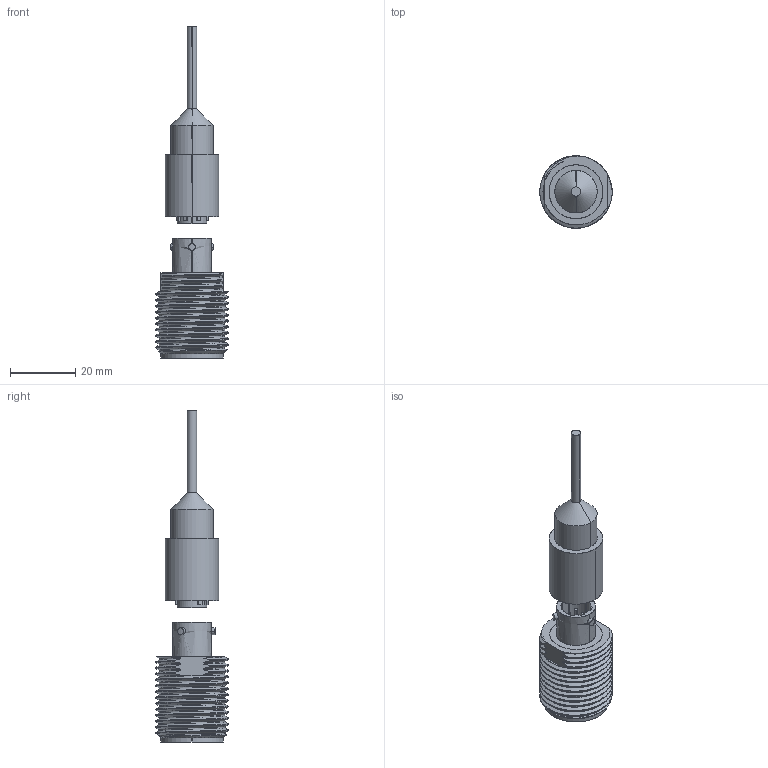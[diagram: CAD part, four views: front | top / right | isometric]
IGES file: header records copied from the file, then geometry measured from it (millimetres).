
Start section: SolidWorks IGES file using analytic representation for surfaces
Global section: file name: C:\Documents and Settings\Administrator\My Documents\EDI\3D\finished sensors\6C.IGS; native system: SolidWorks 2008; preprocessor: SolidWorks 2008; author: Administrator; date: 100304.193901; units: millimetre
Bounding box: 22.23 x 22.23 x 101.91 mm (x, y, z)
Surface area: 7716.1 mm2 (no closed solid volume)
Topology: 0 solids, 0 shells, 172 faces, 2966 edges, 2966 vertices
Faces by surface type: bspline 97, revolution 75
